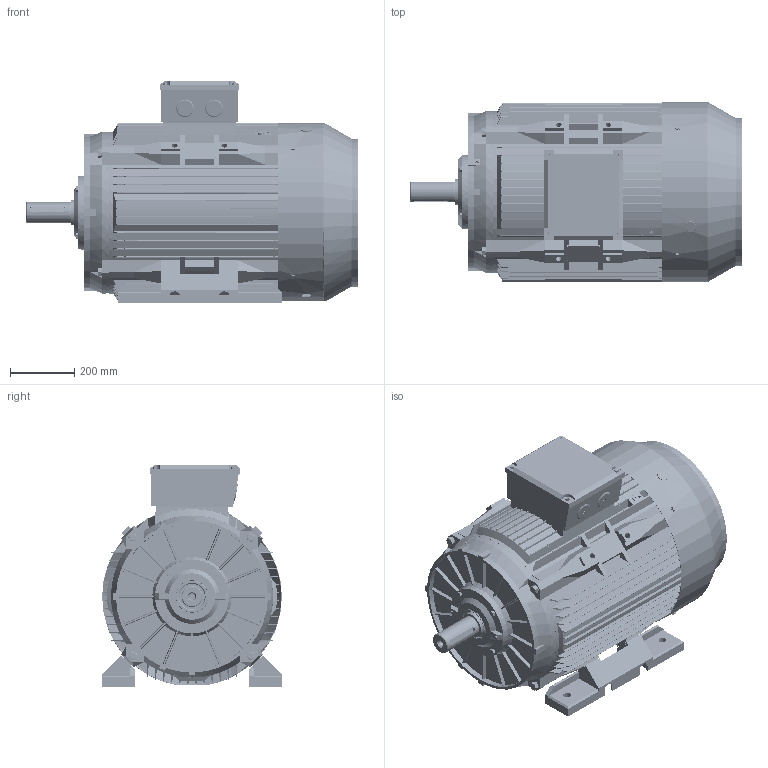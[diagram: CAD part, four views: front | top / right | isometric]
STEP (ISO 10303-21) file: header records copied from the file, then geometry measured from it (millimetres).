
FILE_DESCRIPTION (( 'STEP AP203' ), '1' );
FILE_NAME ('TC 280M-2 B3 外形图.STEP', '2013-06-27T06:12:39', ( '微软用户' ), ( '微软中国' ), 'SwSTEP 2.0', 'SolidWorks 2008', '' );
FILE_SCHEMA (( 'CONFIG_CONTROL_DESIGN' ));
Products named in the file (23): TC280M底脚_默认; TC 280 轴承外盖DE_默认; TC280 B3前端盖(170)_默认; 油封80-100-10_默认; 10_默认; 16_默认; M10-80_默认; 铜油嘴_默认; TC 280M-2 B3 俋倛芞; TC 280M B5机座_默认; TC280 B3后端盖(170)_默认; TC 280 轴承外盖NDE_默认; TC 280M-2 转子_默认; TC 280M-2 转轴_默认; 6316_默认; TC 280M接线盒座_默认; TC 280M接线盒盖_默认; TC 280 风罩_默认; M16-50_默认; M8-12_默认; M8-20_默认; 螺塞M50_默认; 扣塞_默认
Assembly tree (43 placements, depth 3):
  TC 280M-2 B3 俋倛芞
    16_默认  x4
    TC280M底脚_默认  x2
    M10-80_默认  x4
    M16-50_默认  x4
    10_默认  x4
    M8-20_默认  x4
    扣塞_默认
    M8-12_默认  x4
    螺塞M50_默认  x2
    TC280 B3后端盖(170)_默认
    TC 280 轴承外盖DE_默认
    油封80-100-10_默认
    TC 280 轴承外盖NDE_默认
    TC 280M-2 转子_默认
      TC 280M-2 转轴_默认
      6316_默认  x2
    铜油嘴_默认
    TC280 B3前端盖(170)_默认
    TC 280M B5机座_默认
    TC 280 风罩_默认
    TC 280M接线盒盖_默认
    TC 280M接线盒座_默认
Bounding box: 1032.2 x 559 x 688.14 mm (x, y, z)
Volume: 38344265.1 mm3; surface area: 7261206.4 mm2
Topology: 43 solids, 44 shells, 9939 faces, 29179 edges, 19320 vertices
Faces by surface type: plane 5020, cylinder 4261, cone 299, torus 182, bspline 115, sphere 62
Entity records: 331681 total; most frequent: CARTESIAN_POINT 72149, ORIENTED_EDGE 54656, DIRECTION 53007, EDGE_CURVE 27328, VERTEX_POINT 18135, AXIS2_PLACEMENT_3D 17993, VECTOR 17021, LINE 17021
